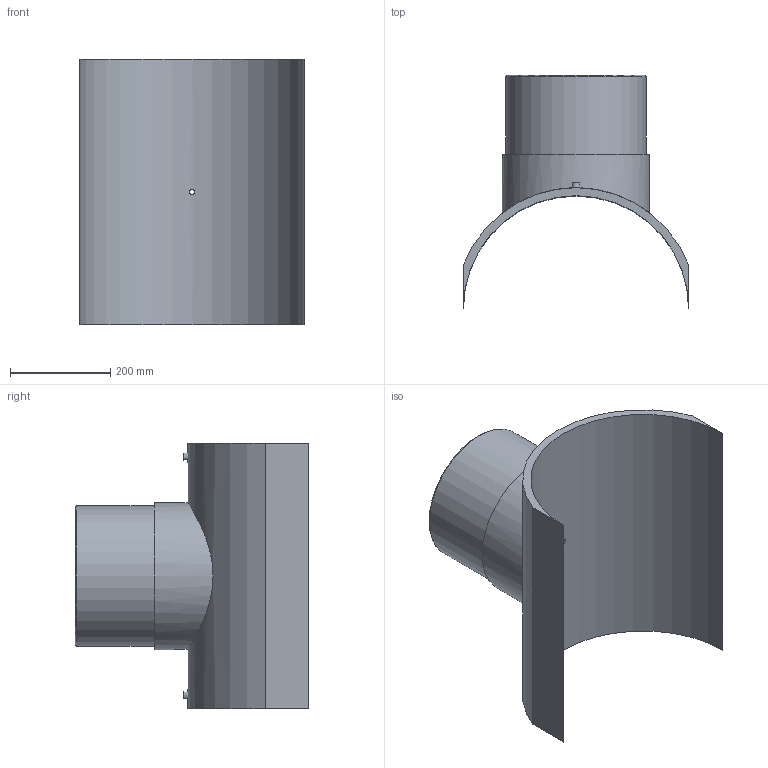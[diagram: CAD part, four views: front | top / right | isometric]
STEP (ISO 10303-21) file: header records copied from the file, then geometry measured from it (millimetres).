
FILE_DESCRIPTION(/* description */ ('PLASSON BRANCH SADDLE 450x280'),/* implementation_level */ '2;1');
FILE_NAME(/* name */ 'C:\Dropbox\KIMPROJECTS-Inventor 2019\99-16-3568-Processing\ElectroFusion Fittings\495803\stp\495803450280T.stp',/* time_stamp */ '2024-04-04T11:51:03+02:00',/* author */ ('KIM'),/* organization */ (''),/* preprocessor_version */ 'ST-DEVELOPER v17.2',/* originating_system */ 'Autodesk Inventor 2019',/* authorisation */ '');
FILE_SCHEMA (('AUTOMOTIVE_DESIGN { 1 0 10303 214 3 1 1 }'));
Length unit declared in the file: millimetre
Products named in the file (1): 495803450280T
Bounding box: 450 x 466 x 530 mm (x, y, z)
Volume: 11188373.3 mm3; surface area: 1192065.6 mm2
Topology: 1 solids, 1 shells, 29 faces, 60 edges, 43 vertices
Faces by surface type: plane 13, cylinder 12, torus 2, cone 2
Full cylindrical faces by diameter (mm): 4 x2, 9.6 x1, 10 x2, 16 x1, 224 x1, 280 x1, 294 x1
Entity records: 1094 total; most frequent: CARTESIAN_POINT 408, DIRECTION 139, ORIENTED_EDGE 120, EDGE_CURVE 60, AXIS2_PLACEMENT_3D 60, VERTEX_POINT 43, EDGE_LOOP 41, CIRCLE 30
